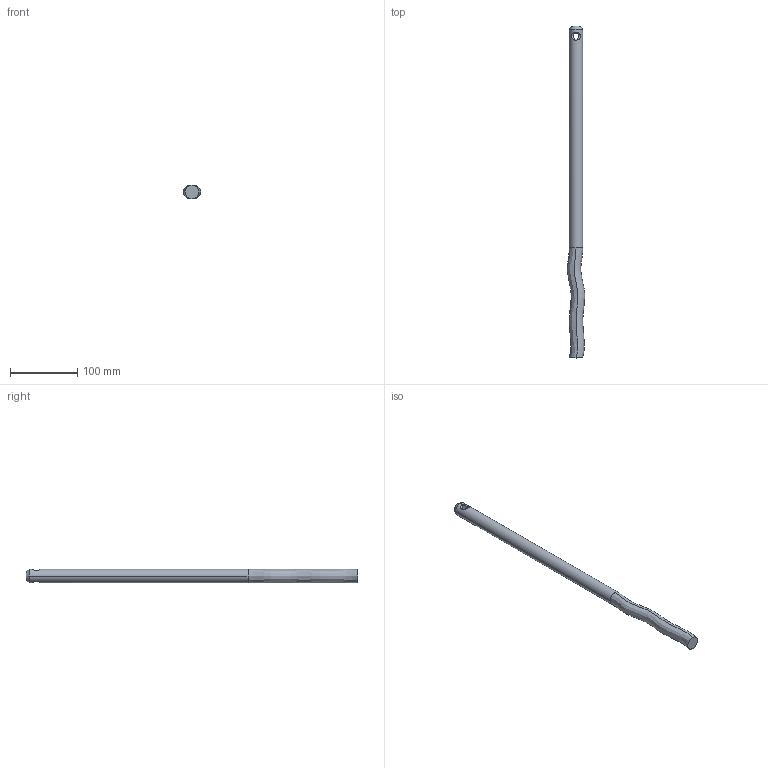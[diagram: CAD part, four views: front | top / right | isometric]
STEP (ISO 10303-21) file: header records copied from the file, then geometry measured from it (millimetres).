
FILE_DESCRIPTION (( 'STEP AP203' ), '1' );
FILE_NAME ('19620080.STEP', '2021-06-29T10:49:32', ( '' ), ( '' ), 'SwSTEP 2.0', 'SolidWorks 2013', '' );
FILE_SCHEMA (( 'CONFIG_CONTROL_DESIGN' ));
Length unit declared in the file: millimetre
Products named in the file (1): 19620080
Bounding box: 25.73 x 492 x 20 mm (x, y, z)
Volume: 152812.1 mm3; surface area: 31742 mm2
Topology: 1 solids, 1 shells, 14 faces, 33 edges, 21 vertices
Faces by surface type: bspline 6, cylinder 4, cone 2, plane 2
Entity records: 3824 total; most frequent: CARTESIAN_POINT 3463, ORIENTED_EDGE 66, DIRECTION 44, EDGE_CURVE 33, VERTEX_POINT 21, AXIS2_PLACEMENT_3D 19, B_SPLINE_CURVE_WITH_KNOTS 17, EDGE_LOOP 16
